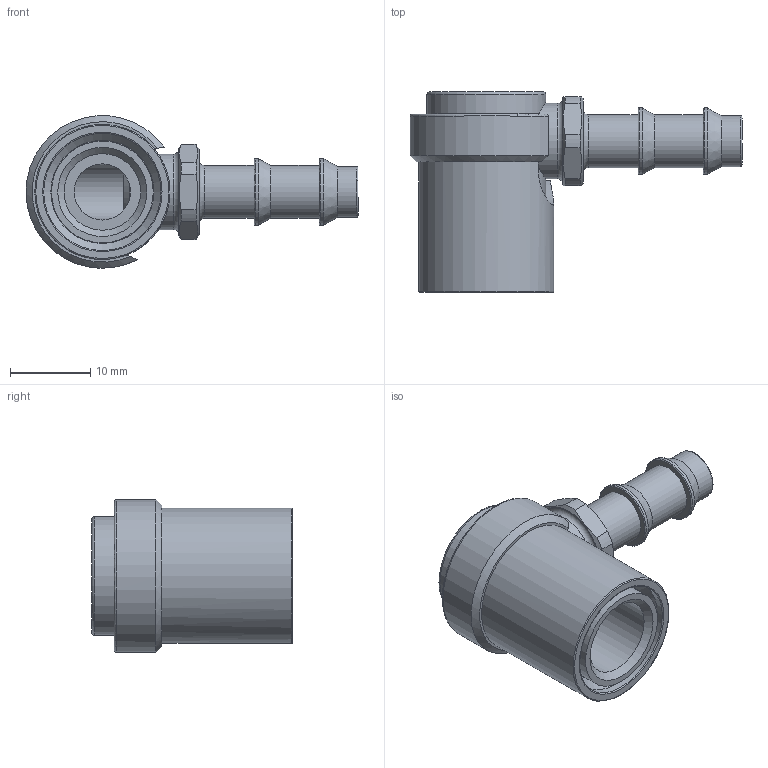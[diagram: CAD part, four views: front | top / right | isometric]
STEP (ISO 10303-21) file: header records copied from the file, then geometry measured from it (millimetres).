
FILE_DESCRIPTION(/* description */ (''),/* implementation_level */ '2;1');
FILE_NAME(/* name */ 'C:/Users/drich/Desktop/SJ200-4 v1.step',/* time_stamp */ '2019-12-29T15:41:39-06:00',/* author */ (''),/* organization */ (''),/* preprocessor_version */ 'ST-DEVELOPER v18',/* originating_system */ 'Autodesk Translation Framework v8.12.0.6',/* authorisation */ '');
FILE_SCHEMA (('AUTOMOTIVE_DESIGN { 1 0 10303 214 3 1 1 }'));
Length unit declared in the file: inch
Products named in the file (6): SJ200-4; CM-218 body; Component2; 200 ser sleeve; 200 ser sleeve_1; SJ200-4 BARB
Assembly tree (5 placements, depth 3):
  SJ200-4
    CM-218 body
      Component2
    200 ser sleeve
      200 ser sleeve_1
    SJ200-4 BARB
Bounding box: 41.41 x 25.02 x 19.02 mm (x, y, z)
Volume: 4522.5 mm3; surface area: 5961.9 mm2
Topology: 4 solids, 4 shells, 86 faces, 237 edges, 166 vertices
Faces by surface type: cylinder 32, plane 30, cone 12, torus 12
Full cylindrical faces by diameter (mm): 4.724 x1, 6.35 x1, 6.604 x2, 7.01 x1, 7.023 x1, 7.112 x1, 7.137 x1, 8.28 x2, 9.413 x1, 9.55 x1, 9.652 x1, 9.804 x1, 10.109 x2, 10.922 x1, 12.7 x1, 12.852 x1, 14.63 x1, 14.808 x1, 14.91 x1, 16.866 x1
Entity records: 3224 total; most frequent: CARTESIAN_POINT 738, DIRECTION 546, ORIENTED_EDGE 472, AXIS2_PLACEMENT_3D 242, EDGE_CURVE 236, VERTEX_POINT 166, CIRCLE 142, EDGE_LOOP 102
